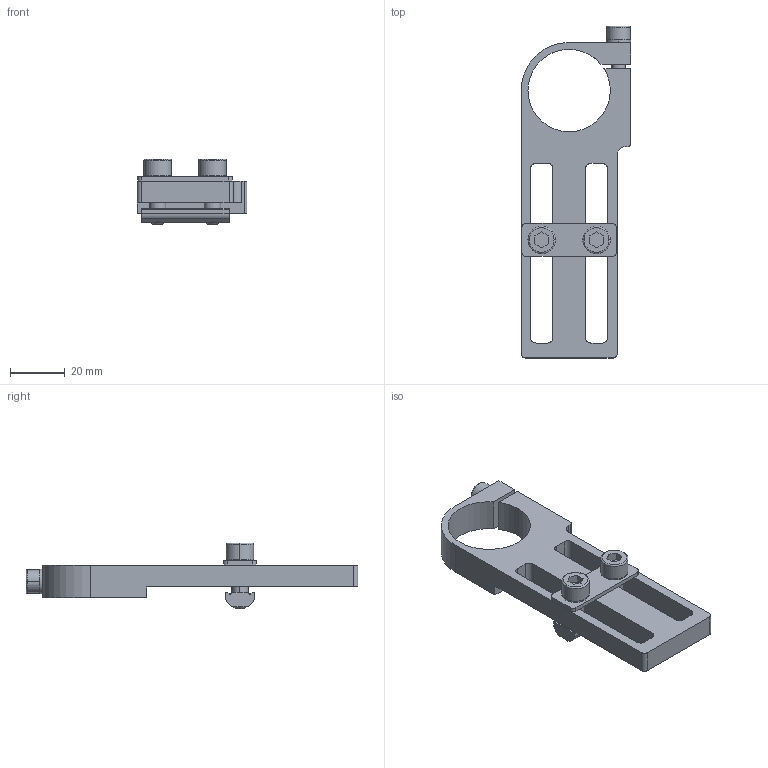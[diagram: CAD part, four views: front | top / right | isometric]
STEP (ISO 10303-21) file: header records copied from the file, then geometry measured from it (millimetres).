
FILE_DESCRIPTION (( 'STEP AP214' ), '1' );
FILE_NAME ('5704(MFI-A08).STEP', '2023-10-26T13:35:44', ( '' ), ( '' ), 'SwSTEP 2.0', 'SolidWorks 2022', '' );
FILE_SCHEMA (( 'AUTOMOTIVE_DESIGN' ));
Length unit declared in the file: millimetre
Products named in the file (3): 5700-5704_5704 Part B; 5700-5704_5704; 5704(MFI-A08)
Assembly tree (2 placements, depth 2):
  5704(MFI-A08)
    5700-5704_5704
    5700-5704_5704 Part B
Bounding box: 40 x 120.96 x 24 mm (x, y, z)
Volume: 25936.7 mm3; surface area: 16052.1 mm2
Topology: 9 solids, 9 shells, 176 faces, 449 edges, 294 vertices
Faces by surface type: plane 91, cylinder 73, cone 6, torus 6
Entity records: 5992 total; most frequent: CARTESIAN_POINT 1116, DIRECTION 931, ORIENTED_EDGE 898, EDGE_CURVE 449, AXIS2_PLACEMENT_3D 333, VERTEX_POINT 294, LINE 265, VECTOR 265
